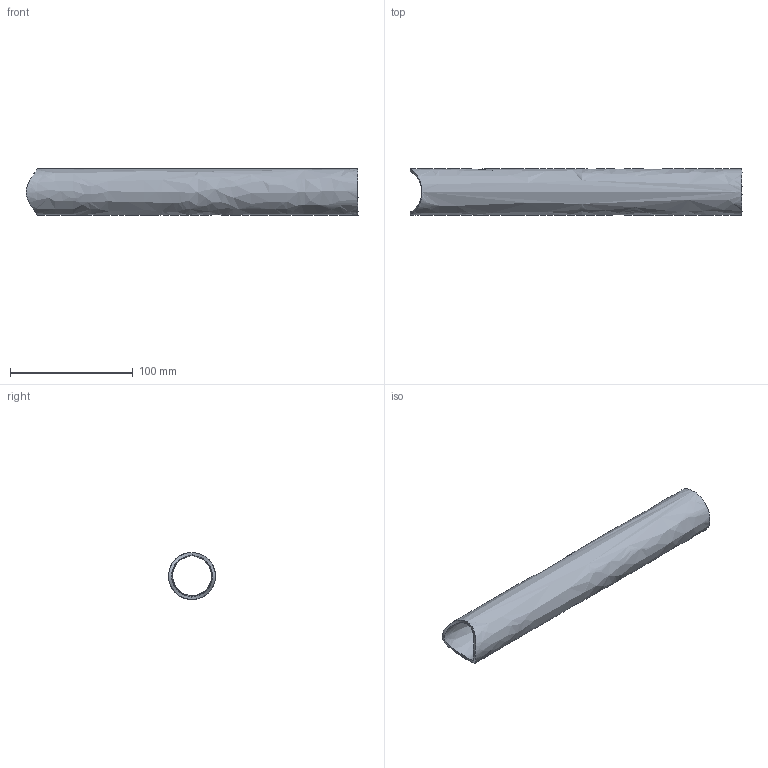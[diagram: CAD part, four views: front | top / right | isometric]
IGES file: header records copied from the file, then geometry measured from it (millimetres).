
Start section: TUBESHOP-BUNDLE-V1 eyJ0dWJlc2hvcCI6MSwia2luZCI6InR1YmVzaG9wLmJ1bmRsZSIsImFwcFZlcnNpb24iOiIx LjEwLjkiLCJuYW1lIjoiUVMxMDkgUXVpY2sgc3RhcnQgZGVtb25zdHJhdGlvbiIsInNvdXJj ZSI6ImZ1c2lvbiIsIm5vdGUiOiIiLCJzdGFtcCI6MTc5MzAyOTQyMSwiY291bnQiOjEsInR1 YmVzIjpbeyJpZCI6IkIyIFN0cmFpZ2h0IGpvaW50IiwibmFtZSI6IkIyIFN0cmFpZ2h0IGpv aW50Iiwib2QiOjEuNSwid2FsbCI6MC4wOTUsInNlY3Rpb24iOnsia2luZCI6InJvdW5kIiwi b2RfaW4iOjEuNSwi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
Global section: file name: B2 Straight joint_developed; native system: unknown; preprocessor: unknown; author: unknown; organization: unknown; date: 20261026.114345; units: inch
Bounding box: 270.02 x 38.1 x 38.1 mm (x, y, z)
Volume: 71407.3 mm3; surface area: 59936.1 mm2
Topology: 1 solids, 1 shells, 5 faces, 14 edges, 10 vertices
Faces by surface type: bspline 5
